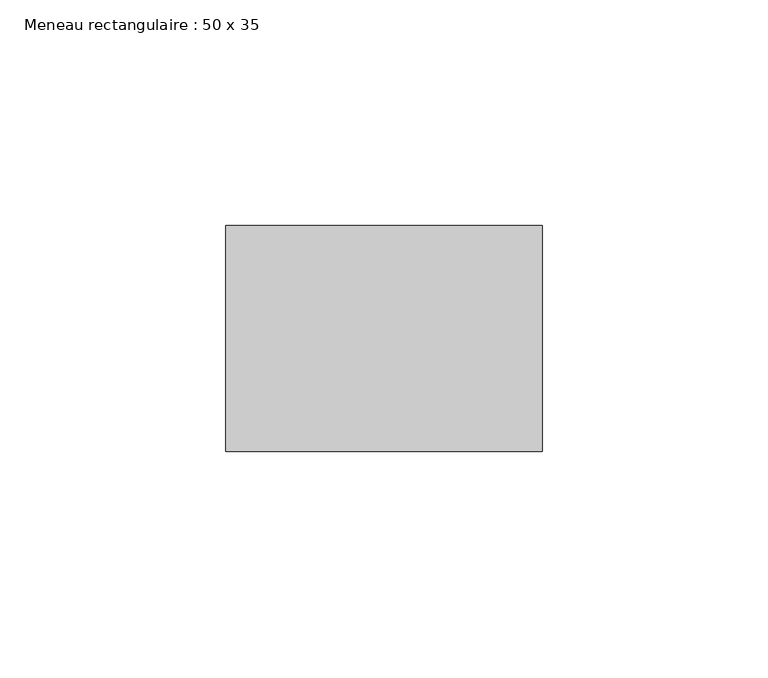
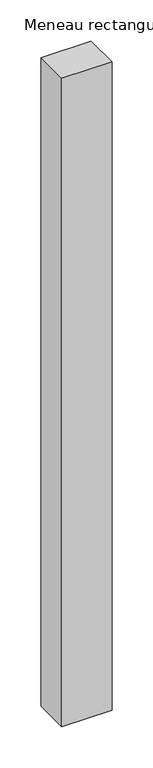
"""IFC4 building model written with IfcOpenShell, lengths in millimetres: member geometry, Meneau rectangulaire : 50 x 35."""

from ifc_helpers import new_model, si_unit, frame, origin, place, context, project, spatial, polyline, outline, extrude, source, transform, mapped, element, save


def meneau_rectangulaire_50_x_35_efaf7e4f(model_context):
    return source(origin(), model_context, "Body", "SweptSolid", [
        extrude(outline(polyline([(0.0, 0.0), (0.0, -50.0), (-70.0, -50.0), (-70.0, 0.0), (0.0, 0.0)])), frame((0.0, 0.0, -957.6085788), z_axis=(0.0, 0.0, 1.0), x_axis=(1.0, 0.0, 0.0)), (0.0, 0.0, 1.0), 957.6085788),
    ])


if __name__ == "__main__":
    model = new_model("IFC4")
    model_context = context("Model", 3, world=origin())
    ifc_project = project(units=[si_unit("LENGTHUNIT", "METRE", prefix="MILLI")], contexts=[model_context])
    site = spatial("IfcSite", under=ifc_project)
    building = spatial("IfcBuilding", under=site)
    placement = place(None, origin())
    meneau_rectangulaire_50_x_35_shape = meneau_rectangulaire_50_x_35_efaf7e4f(model_context)
    element("IfcMember", 1, ObjectType="Meneau rectangulaire : 50 x 35", at=placement, inside=building, context=model_context, shape_type="MappedRepresentation", body=[
        mapped(meneau_rectangulaire_50_x_35_shape, transform((0.0, 0.0, 0.0), x_axis=(1.0, 0.0, 0.0), y_axis=(0.0, 1.0, 0.0), z_axis=(0.0, 0.0, 1.0))),
    ])
    save(model, "model.ifc")
